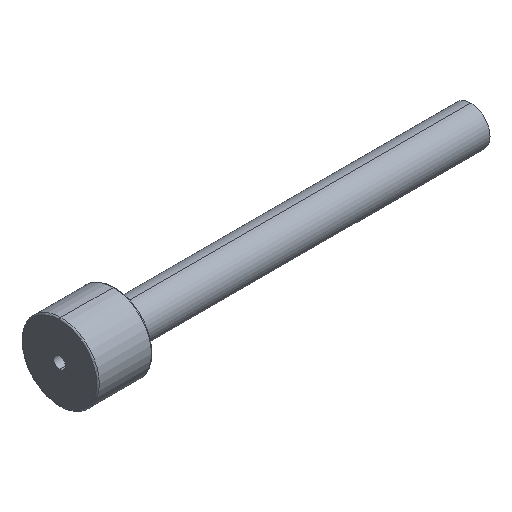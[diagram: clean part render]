
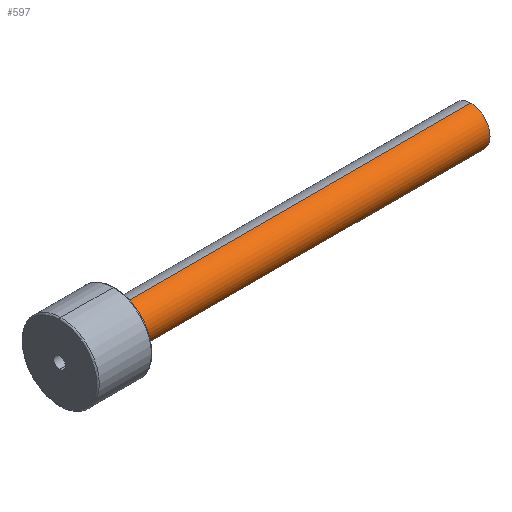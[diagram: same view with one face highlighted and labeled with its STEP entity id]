
A CAD part, isometric view. The second image highlights one B-rep face of the part: STEP entity #597.
In plain terms, the highlighted cylindrical face has radius 7 mm (diameter 14 mm), a partial arc.
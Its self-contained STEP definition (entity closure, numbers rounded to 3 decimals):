
#431=CARTESIAN_POINT('Vertex',(150.,0.,7.)) ;
#434=CARTESIAN_POINT('Axis2P3D Location',(150.,0.,0.)) ;
#438=CARTESIAN_POINT('Vertex',(150.,-7.,0.)) ;
#441=CARTESIAN_POINT('Axis2P3D Location',(150.,0.,0.)) ;
#445=CARTESIAN_POINT('Vertex',(150.,0.,-7.)) ;
#537=CARTESIAN_POINT('Line Origine',(150.,0.,7.)) ;
#541=CARTESIAN_POINT('Vertex',(20.,0.,7.)) ;
#544=CARTESIAN_POINT('Line Origine',(150.,0.,-7.)) ;
#548=CARTESIAN_POINT('Vertex',(20.,0.,-7.)) ;
#572=CARTESIAN_POINT('Axis2P3D Location',(150.,0.,0.)) ;
#577=CARTESIAN_POINT('Axis2P3D Location',(20.,0.,0.)) ;
#581=CARTESIAN_POINT('Vertex',(20.,-7.,0.)) ;
#584=CARTESIAN_POINT('Axis2P3D Location',(20.,0.,0.)) ;
#435=DIRECTION('Axis2P3D Direction',(1.,0.,-0.)) ;
#442=DIRECTION('Axis2P3D Direction',(1.,0.,-0.)) ;
#538=DIRECTION('Vector Direction',(-1.,0.,0.)) ;
#545=DIRECTION('Vector Direction',(-1.,0.,0.)) ;
#573=DIRECTION('Axis2P3D Direction',(-1.,-0.,-0.)) ;
#574=DIRECTION('Axis2P3D XDirection',(0.,0.,-1.)) ;
#578=DIRECTION('Axis2P3D Direction',(-1.,-0.,-0.)) ;
#585=DIRECTION('Axis2P3D Direction',(-1.,-0.,-0.)) ;
#436=AXIS2_PLACEMENT_3D('Circle Axis2P3D',#434,#435,$) ;
#443=AXIS2_PLACEMENT_3D('Circle Axis2P3D',#441,#442,$) ;
#575=AXIS2_PLACEMENT_3D('Cylinder Axis2P3D',#572,#573,#574) ;
#579=AXIS2_PLACEMENT_3D('Circle Axis2P3D',#577,#578,$) ;
#586=AXIS2_PLACEMENT_3D('Circle Axis2P3D',#584,#585,$) ;
#590=ORIENTED_EDGE('',*,*,#550,.T.) ;
#591=ORIENTED_EDGE('',*,*,#447,.F.) ;
#592=ORIENTED_EDGE('',*,*,#440,.F.) ;
#593=ORIENTED_EDGE('',*,*,#543,.T.) ;
#594=ORIENTED_EDGE('',*,*,#583,.T.) ;
#595=ORIENTED_EDGE('',*,*,#588,.T.) ;
#539=VECTOR('Line Direction',#538,1.) ;
#546=VECTOR('Line Direction',#545,1.) ;
#597=ADVANCED_FACE('367F-14X150',(#596),#576,.T.) ;
#437=CIRCLE('generated circle',#436,7.) ;
#444=CIRCLE('generated circle',#443,7.) ;
#580=CIRCLE('generated circle',#579,7.) ;
#587=CIRCLE('generated circle',#586,7.) ;
#576=CYLINDRICAL_SURFACE('generated cylinder',#575,7.) ;
#440=EDGE_CURVE('',#432,#439,#437,.T.) ;
#447=EDGE_CURVE('',#439,#446,#444,.T.) ;
#543=EDGE_CURVE('',#432,#542,#540,.T.) ;
#550=EDGE_CURVE('',#549,#446,#547,.F.) ;
#583=EDGE_CURVE('',#542,#582,#580,.F.) ;
#588=EDGE_CURVE('',#582,#549,#587,.F.) ;
#589=EDGE_LOOP('',(#590,#591,#592,#593,#594,#595)) ;
#596=FACE_OUTER_BOUND('',#589,.T.) ;
#540=LINE('Line',#537,#539) ;
#547=LINE('Line',#544,#546) ;
#432=VERTEX_POINT('',#431) ;
#439=VERTEX_POINT('',#438) ;
#446=VERTEX_POINT('',#445) ;
#542=VERTEX_POINT('',#541) ;
#549=VERTEX_POINT('',#548) ;
#582=VERTEX_POINT('',#581) ;
